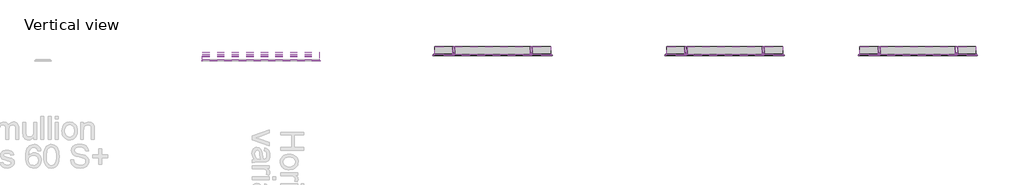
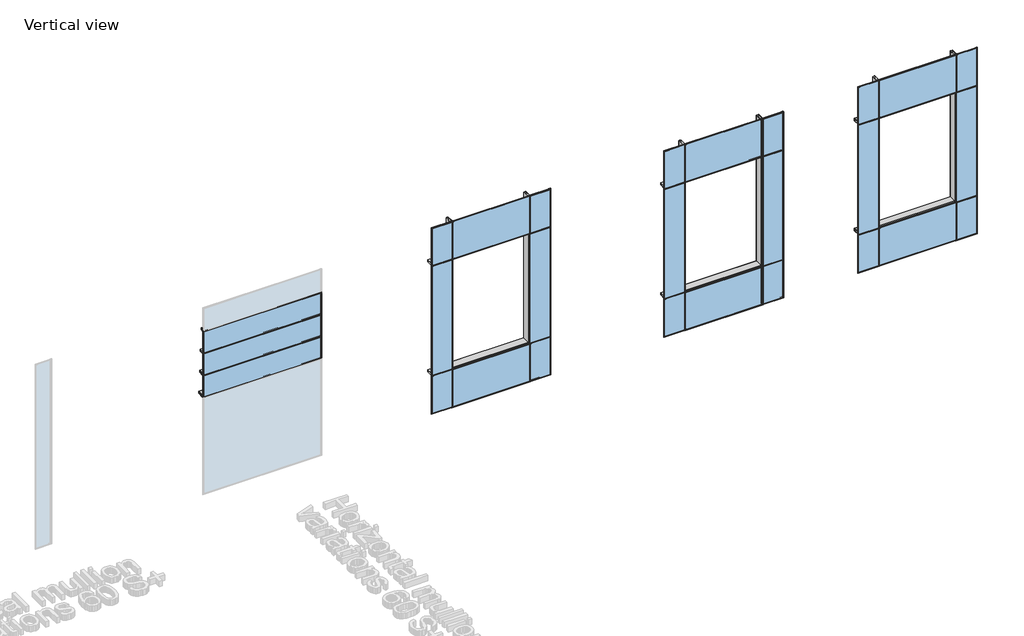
# One storey, part 3 of 8: 40 members, 27 windows.
"""IFC4 building model written with IfcOpenShell, lengths in millimetres."""

from ifc_helpers import new_model, si_unit, origin, place, context, project, spatial, transform, mapped, element, save
from components import rectangular_mullion_fmo60_202s_cc5a2b80, rectangular_mullion_fmo60_202s_3de299ea, rectangular_mullion_fmv60_114_s_1e62fae1, rectangular_mullion_fmv60_156_s_41606e2c, rectangular_mullion_fmv60_198_s_cefb9c46, rectangular_mullion_fmv60_198_s_b937cef9, rectangular_mullion_fmv60_198_s_67a3e9e7, rectangular_mullion_fmv60_198_s_6e11e081, rectangular_mullion_fmv60_88_s_6ca42b6d, fixed_panel_02_fixed_panel_rubber_02_6457a62b, fixed_panel_02_fixed_panel_rubber_02_22c873de, fixed_panel_02_fixed_panel_rubber_02_d23046c7, fixed_panel_02_fixed_panel_rubber_02_43b58ed7, fixed_panel_02_fixed_panel_rubber_02_0f69a50b, fixed_panel_02_fixed_panel_rubber_02_d76b892d, fixed_panel_02_fixed_panel_rubber_02_469b61ab, fixed_panel_02_fixed_panel_rubber_02_e0af49cf, fixed_panel_02_fixed_panel_rubber_02_09232a5a, fixed_panel_02_fixed_panel_rubber_02_66d61222

model = new_model("IFC4")

# Units and contexts
model_context = context("Model", 3, world=origin())
ifc_project = project(units=[si_unit("LENGTHUNIT", "METRE", prefix="MILLI")], contexts=[model_context])

# Site, building, storey
site = spatial("IfcSite", under=ifc_project)
building = spatial("IfcBuilding", under=site)
storey = spatial("IfcBuildingStorey", under=building, Name="Vertical view", Elevation=0.0)

# Members
placement = place(None, origin())
rectangular_mullion_fmo60_202s_shape = rectangular_mullion_fmo60_202s_cc5a2b80(model_context)
element("IfcMember", 1, ObjectType="Rectangular Mullion : FMO60-202S+", at=placement, inside=storey, context=model_context, shape_type="MappedRepresentation", body=[
    mapped(rectangular_mullion_fmo60_202s_shape, transform((40454.7967463, -3813.2711063, 4000.0), x_axis=(1.0, 0.0, 0.0), y_axis=(0.0, -1.0, 0.0), z_axis=(0.0, 0.0, -1.0))),
])
element("IfcMember", 2, ObjectType="Rectangular Mullion : FMO60-202S+", at=placement, inside=storey, context=model_context, shape_type="MappedRepresentation", body=[
    mapped(rectangular_mullion_fmo60_202s_shape, transform((42454.7967463, -3813.2711063, 4000.0), x_axis=(1.0, 0.0, 0.0), y_axis=(0.0, -1.0, 0.0), z_axis=(0.0, 0.0, -1.0))),
])
element("IfcMember", 3, ObjectType="Rectangular Mullion : FMO60-202S+", at=placement, inside=storey, context=model_context, shape_type="MappedRepresentation", body=[
    mapped(rectangular_mullion_fmo60_202s_shape, transform((46454.7967463, -3813.2711063, 4000.0), x_axis=(1.0, 0.0, 0.0), y_axis=(0.0, -1.0, 0.0), z_axis=(0.0, 0.0, -1.0))),
])
element("IfcMember", 4, ObjectType="Rectangular Mullion : FMO60-202S+", at=placement, inside=storey, context=model_context, shape_type="MappedRepresentation", body=[
    mapped(rectangular_mullion_fmo60_202s_shape, transform((48454.7967463, -3813.2711063, 4000.0), x_axis=(1.0, 0.0, 0.0), y_axis=(0.0, -1.0, 0.0), z_axis=(0.0, 0.0, -1.0))),
])
element("IfcMember", 5, ObjectType="Rectangular Mullion : FMO60-202S+", at=placement, inside=storey, context=model_context, shape_type="MappedRepresentation", body=[
    mapped(rectangular_mullion_fmo60_202s_shape, transform((51454.7967463, -3813.2711063, 4000.0), x_axis=(1.0, 0.0, 0.0), y_axis=(0.0, -1.0, 0.0), z_axis=(0.0, 0.0, -1.0))),
])
element("IfcMember", 6, ObjectType="Rectangular Mullion : FMO60-202S+", at=placement, inside=storey, context=model_context, shape_type="MappedRepresentation", body=[
    mapped(rectangular_mullion_fmo60_202s_shape, transform((53454.7967463, -3813.2711063, 4000.0), x_axis=(1.0, 0.0, 0.0), y_axis=(0.0, -1.0, 0.0), z_axis=(0.0, 0.0, -1.0))),
])
rectangular_mullion_fmo60_202s_2_shape = rectangular_mullion_fmo60_202s_3de299ea(model_context)
element("IfcMember", 7, ObjectType="Rectangular Mullion : FMO60-202S+", at=placement, inside=storey, context=model_context, shape_type="MappedRepresentation", body=[
    mapped(rectangular_mullion_fmo60_202s_2_shape, transform((40454.7967463, -3813.2711063, 1000.0), x_axis=(1.0, 0.0, 0.0), y_axis=(0.0, -1.0, 0.0), z_axis=(0.0, 0.0, -1.0))),
])
element("IfcMember", 8, ObjectType="Rectangular Mullion : FMO60-202S+", at=placement, inside=storey, context=model_context, shape_type="MappedRepresentation", body=[
    mapped(rectangular_mullion_fmo60_202s_2_shape, transform((42454.7967463, -3813.2711063, 1000.0), x_axis=(1.0, 0.0, 0.0), y_axis=(0.0, -1.0, 0.0), z_axis=(0.0, 0.0, -1.0))),
])
element("IfcMember", 9, ObjectType="Rectangular Mullion : FMO60-202S+", at=placement, inside=storey, context=model_context, shape_type="MappedRepresentation", body=[
    mapped(rectangular_mullion_fmo60_202s_2_shape, transform((46454.7967463, -3813.2711063, 1000.0), x_axis=(1.0, 0.0, 0.0), y_axis=(0.0, -1.0, 0.0), z_axis=(0.0, 0.0, -1.0))),
])
element("IfcMember", 10, ObjectType="Rectangular Mullion : FMO60-202S+", at=placement, inside=storey, context=model_context, shape_type="MappedRepresentation", body=[
    mapped(rectangular_mullion_fmo60_202s_2_shape, transform((48454.7967463, -3813.2711063, 1000.0), x_axis=(1.0, 0.0, 0.0), y_axis=(0.0, -1.0, 0.0), z_axis=(0.0, 0.0, -1.0))),
])
element("IfcMember", 11, ObjectType="Rectangular Mullion : FMO60-202S+", at=placement, inside=storey, context=model_context, shape_type="MappedRepresentation", body=[
    mapped(rectangular_mullion_fmo60_202s_2_shape, transform((51454.7967463, -3813.2711063, 1000.0), x_axis=(1.0, 0.0, 0.0), y_axis=(0.0, -1.0, 0.0), z_axis=(0.0, 0.0, -1.0))),
])
element("IfcMember", 12, ObjectType="Rectangular Mullion : FMO60-202S+", at=placement, inside=storey, context=model_context, shape_type="MappedRepresentation", body=[
    mapped(rectangular_mullion_fmo60_202s_2_shape, transform((53454.7967463, -3813.2711063, 1000.0), x_axis=(1.0, 0.0, 0.0), y_axis=(0.0, -1.0, 0.0), z_axis=(0.0, 0.0, -1.0))),
])
element("IfcMember", 13, ObjectType="Rectangular Mullion : FMO60-202S+", at=placement, inside=storey, context=model_context, shape_type="MappedRepresentation", body=[
    mapped(rectangular_mullion_fmo60_202s_shape, transform((40454.7967463, -3813.2711063, 0.0), x_axis=(1.0, 0.0, 0.0), y_axis=(0.0, -1.0, 0.0), z_axis=(0.0, 0.0, -1.0))),
])
element("IfcMember", 14, ObjectType="Rectangular Mullion : FMO60-202S+", at=placement, inside=storey, context=model_context, shape_type="MappedRepresentation", body=[
    mapped(rectangular_mullion_fmo60_202s_shape, transform((42454.7967463, -3813.2711063, 0.0), x_axis=(1.0, 0.0, 0.0), y_axis=(0.0, -1.0, 0.0), z_axis=(0.0, 0.0, -1.0))),
])
element("IfcMember", 15, ObjectType="Rectangular Mullion : FMO60-202S+", at=placement, inside=storey, context=model_context, shape_type="MappedRepresentation", body=[
    mapped(rectangular_mullion_fmo60_202s_shape, transform((46454.7967463, -3813.2711063, 0.0), x_axis=(1.0, 0.0, 0.0), y_axis=(0.0, -1.0, 0.0), z_axis=(0.0, 0.0, -1.0))),
])
element("IfcMember", 16, ObjectType="Rectangular Mullion : FMO60-202S+", at=placement, inside=storey, context=model_context, shape_type="MappedRepresentation", body=[
    mapped(rectangular_mullion_fmo60_202s_shape, transform((48454.7967463, -3813.2711063, 0.0), x_axis=(1.0, 0.0, 0.0), y_axis=(0.0, -1.0, 0.0), z_axis=(0.0, 0.0, -1.0))),
])
element("IfcMember", 17, ObjectType="Rectangular Mullion : FMO60-202S+", at=placement, inside=storey, context=model_context, shape_type="MappedRepresentation", body=[
    mapped(rectangular_mullion_fmo60_202s_shape, transform((51454.7967463, -3813.2711063, 0.0), x_axis=(1.0, 0.0, 0.0), y_axis=(0.0, -1.0, 0.0), z_axis=(0.0, 0.0, -1.0))),
])
element("IfcMember", 18, ObjectType="Rectangular Mullion : FMO60-202S+", at=placement, inside=storey, context=model_context, shape_type="MappedRepresentation", body=[
    mapped(rectangular_mullion_fmo60_202s_shape, transform((53454.7967463, -3813.2711063, 0.0), x_axis=(1.0, 0.0, 0.0), y_axis=(0.0, -1.0, 0.0), z_axis=(0.0, 0.0, -1.0))),
])
rectangular_mullion_fmv60_114_s_shape = rectangular_mullion_fmv60_114_s_1e62fae1(model_context)
element("IfcMember", 19, ObjectType="Rectangular Mullion : FMV60-114 S+", at=placement, inside=storey, context=model_context, shape_type="MappedRepresentation", body=[
    mapped(rectangular_mullion_fmv60_114_s_shape, transform((36974.7967463, -3962.2769055, 3800.0), x_axis=(0.0, 0.0, 1.0), y_axis=(0.0, -1.0, 0.0), z_axis=(1.0, 0.0, 0.0))),
])
rectangular_mullion_fmv60_156_s_shape = rectangular_mullion_fmv60_156_s_41606e2c(model_context)
element("IfcMember", 20, ObjectType="Rectangular Mullion : FMV60-156 S+", at=placement, inside=storey, context=model_context, shape_type="MappedRepresentation", body=[
    mapped(rectangular_mullion_fmv60_156_s_shape, transform((36974.7967463, -3962.2769055, 3200.0), x_axis=(0.0, 0.0, 1.0), y_axis=(0.0, -1.0, 0.0), z_axis=(1.0, 0.0, 0.0))),
])
rectangular_mullion_fmv60_198_s_shape = rectangular_mullion_fmv60_198_s_cefb9c46(model_context)
element("IfcMember", 21, ObjectType="Rectangular Mullion : FMV60-198 S+", at=placement, inside=storey, context=model_context, shape_type="MappedRepresentation", body=[
    mapped(rectangular_mullion_fmv60_198_s_shape, transform((36974.7967463, -3962.2769055, 2600.0), x_axis=(0.0, 0.0, 1.0), y_axis=(0.0, -1.0, 0.0), z_axis=(1.0, 0.0, 0.0))),
])
rectangular_mullion_fmv60_198_s_2_shape = rectangular_mullion_fmv60_198_s_b937cef9(model_context)
element("IfcMember", 22, ObjectType="Rectangular Mullion : FMV60-198 S+", at=placement, inside=storey, context=model_context, shape_type="MappedRepresentation", body=[
    mapped(rectangular_mullion_fmv60_198_s_2_shape, transform((42954.7967463, -3813.2711063, 4000.0), x_axis=(0.0, 0.0, 1.0), y_axis=(0.0, -1.0, 0.0), z_axis=(1.0, 0.0, 0.0))),
])
element("IfcMember", 23, ObjectType="Rectangular Mullion : FMV60-198 S+", at=placement, inside=storey, context=model_context, shape_type="MappedRepresentation", body=[
    mapped(rectangular_mullion_fmv60_198_s_2_shape, transform((42954.7967463, -3813.2711063, 1000.0), x_axis=(0.0, 0.0, 1.0), y_axis=(0.0, -1.0, 0.0), z_axis=(1.0, 0.0, 0.0))),
])
element("IfcMember", 24, ObjectType="Rectangular Mullion : FMV60-198 S+", at=placement, inside=storey, context=model_context, shape_type="MappedRepresentation", body=[
    mapped(rectangular_mullion_fmv60_198_s_2_shape, transform((48954.7967463, -3813.2711063, 4000.0), x_axis=(0.0, 0.0, 1.0), y_axis=(0.0, -1.0, 0.0), z_axis=(1.0, 0.0, 0.0))),
])
element("IfcMember", 25, ObjectType="Rectangular Mullion : FMV60-198 S+", at=placement, inside=storey, context=model_context, shape_type="MappedRepresentation", body=[
    mapped(rectangular_mullion_fmv60_198_s_2_shape, transform((48954.7967463, -3813.2711063, 1000.0), x_axis=(0.0, 0.0, 1.0), y_axis=(0.0, -1.0, 0.0), z_axis=(1.0, 0.0, 0.0))),
])
element("IfcMember", 26, ObjectType="Rectangular Mullion : FMV60-198 S+", at=placement, inside=storey, context=model_context, shape_type="MappedRepresentation", body=[
    mapped(rectangular_mullion_fmv60_198_s_2_shape, transform((53954.7967463, -3813.2711063, 4000.0), x_axis=(0.0, 0.0, 1.0), y_axis=(0.0, -1.0, 0.0), z_axis=(1.0, 0.0, 0.0))),
])
element("IfcMember", 27, ObjectType="Rectangular Mullion : FMV60-198 S+", at=placement, inside=storey, context=model_context, shape_type="MappedRepresentation", body=[
    mapped(rectangular_mullion_fmv60_198_s_2_shape, transform((53954.7967463, -3813.2711063, 1000.0), x_axis=(0.0, 0.0, 1.0), y_axis=(0.0, -1.0, 0.0), z_axis=(1.0, 0.0, 0.0))),
])
rectangular_mullion_fmv60_198_s_3_shape = rectangular_mullion_fmv60_198_s_67a3e9e7(model_context)
element("IfcMember", 28, ObjectType="Rectangular Mullion : FMV60-198 S+", at=placement, inside=storey, context=model_context, shape_type="MappedRepresentation", body=[
    mapped(rectangular_mullion_fmv60_198_s_3_shape, transform((42424.8006243, -3813.2711063, 4000.0), x_axis=(0.0, 0.0, 1.0), y_axis=(0.0, -1.0, 0.0), z_axis=(1.0, 0.0, 0.0))),
])
element("IfcMember", 29, ObjectType="Rectangular Mullion : FMV60-198 S+", at=placement, inside=storey, context=model_context, shape_type="MappedRepresentation", body=[
    mapped(rectangular_mullion_fmv60_198_s_3_shape, transform((42424.8006243, -3813.2711063, 1000.0), x_axis=(0.0, 0.0, 1.0), y_axis=(0.0, -1.0, 0.0), z_axis=(1.0, 0.0, 0.0))),
])
element("IfcMember", 30, ObjectType="Rectangular Mullion : FMV60-198 S+", at=placement, inside=storey, context=model_context, shape_type="MappedRepresentation", body=[
    mapped(rectangular_mullion_fmv60_198_s_3_shape, transform((48424.8006243, -3813.2711063, 4000.0), x_axis=(0.0, 0.0, 1.0), y_axis=(0.0, -1.0, 0.0), z_axis=(1.0, 0.0, 0.0))),
])
element("IfcMember", 31, ObjectType="Rectangular Mullion : FMV60-198 S+", at=placement, inside=storey, context=model_context, shape_type="MappedRepresentation", body=[
    mapped(rectangular_mullion_fmv60_198_s_3_shape, transform((48424.8006243, -3813.2711063, 1000.0), x_axis=(0.0, 0.0, 1.0), y_axis=(0.0, -1.0, 0.0), z_axis=(1.0, 0.0, 0.0))),
])
element("IfcMember", 32, ObjectType="Rectangular Mullion : FMV60-198 S+", at=placement, inside=storey, context=model_context, shape_type="MappedRepresentation", body=[
    mapped(rectangular_mullion_fmv60_198_s_3_shape, transform((53424.8006243, -3813.2711063, 4000.0), x_axis=(0.0, 0.0, 1.0), y_axis=(0.0, -1.0, 0.0), z_axis=(1.0, 0.0, 0.0))),
])
element("IfcMember", 33, ObjectType="Rectangular Mullion : FMV60-198 S+", at=placement, inside=storey, context=model_context, shape_type="MappedRepresentation", body=[
    mapped(rectangular_mullion_fmv60_198_s_3_shape, transform((53424.8006243, -3813.2711063, 1000.0), x_axis=(0.0, 0.0, 1.0), y_axis=(0.0, -1.0, 0.0), z_axis=(1.0, 0.0, 0.0))),
])
rectangular_mullion_fmv60_198_s_4_shape = rectangular_mullion_fmv60_198_s_6e11e081(model_context)
element("IfcMember", 34, ObjectType="Rectangular Mullion : FMV60-198 S+", at=placement, inside=storey, context=model_context, shape_type="MappedRepresentation", body=[
    mapped(rectangular_mullion_fmv60_198_s_4_shape, transform((40424.8006243, -3813.2711063, 4000.0), x_axis=(0.0, 0.0, 1.0), y_axis=(0.0, -1.0, 0.0), z_axis=(1.0, 0.0, 0.0))),
])
element("IfcMember", 35, ObjectType="Rectangular Mullion : FMV60-198 S+", at=placement, inside=storey, context=model_context, shape_type="MappedRepresentation", body=[
    mapped(rectangular_mullion_fmv60_198_s_4_shape, transform((40424.8006243, -3813.2711063, 1000.0), x_axis=(0.0, 0.0, 1.0), y_axis=(0.0, -1.0, 0.0), z_axis=(1.0, 0.0, 0.0))),
])
element("IfcMember", 36, ObjectType="Rectangular Mullion : FMV60-198 S+", at=placement, inside=storey, context=model_context, shape_type="MappedRepresentation", body=[
    mapped(rectangular_mullion_fmv60_198_s_4_shape, transform((46424.8006243, -3813.2711063, 4000.0), x_axis=(0.0, 0.0, 1.0), y_axis=(0.0, -1.0, 0.0), z_axis=(1.0, 0.0, 0.0))),
])
element("IfcMember", 37, ObjectType="Rectangular Mullion : FMV60-198 S+", at=placement, inside=storey, context=model_context, shape_type="MappedRepresentation", body=[
    mapped(rectangular_mullion_fmv60_198_s_4_shape, transform((46424.8006243, -3813.2711063, 1000.0), x_axis=(0.0, 0.0, 1.0), y_axis=(0.0, -1.0, 0.0), z_axis=(1.0, 0.0, 0.0))),
])
element("IfcMember", 38, ObjectType="Rectangular Mullion : FMV60-198 S+", at=placement, inside=storey, context=model_context, shape_type="MappedRepresentation", body=[
    mapped(rectangular_mullion_fmv60_198_s_4_shape, transform((51424.8006243, -3813.2711063, 4000.0), x_axis=(0.0, 0.0, 1.0), y_axis=(0.0, -1.0, 0.0), z_axis=(1.0, 0.0, 0.0))),
])
element("IfcMember", 39, ObjectType="Rectangular Mullion : FMV60-198 S+", at=placement, inside=storey, context=model_context, shape_type="MappedRepresentation", body=[
    mapped(rectangular_mullion_fmv60_198_s_4_shape, transform((51424.8006243, -3813.2711063, 1000.0), x_axis=(0.0, 0.0, 1.0), y_axis=(0.0, -1.0, 0.0), z_axis=(1.0, 0.0, 0.0))),
])
rectangular_mullion_fmv60_88_s_shape = rectangular_mullion_fmv60_88_s_6ca42b6d(model_context)
element("IfcMember", 40, ObjectType="Rectangular Mullion : FMV60-88 S+", at=placement, inside=storey, context=model_context, shape_type="MappedRepresentation", body=[
    mapped(rectangular_mullion_fmv60_88_s_shape, transform((36974.7967463, -3962.2769055, 4400.0), x_axis=(0.0, 0.0, 1.0), y_axis=(0.0, -1.0, 0.0), z_axis=(1.0, 0.0, 0.0))),
])

# Windows
fixed_panel_02_fixed_panel_rubber_02_shape = fixed_panel_02_fixed_panel_rubber_02_6457a62b(model_context)
element("IfcWindow", 41, ObjectType="fixed_panel - 02 : fixed_panel_rubber - 02", at=placement, inside=storey, context=model_context, shape_type="MappedRepresentation", body=[
    mapped(fixed_panel_02_fixed_panel_rubber_02_shape, transform((35464.7967463, -3962.2769055, 3829.9842301), x_axis=(1.0, 0.0, 0.0), y_axis=(0.0, 1.0, 0.0), z_axis=(0.0, 0.0, 1.0))),
])
element("IfcWindow", 42, ObjectType="fixed_panel - 02 : fixed_panel_rubber - 02", at=placement, inside=storey, context=model_context, shape_type="MappedRepresentation", body=[
    mapped(fixed_panel_02_fixed_panel_rubber_02_shape, transform((35464.7967463, -3962.2769055, 2629.9842035), x_axis=(1.0, 0.0, 0.0), y_axis=(0.0, 1.0, 0.0), z_axis=(0.0, 0.0, 1.0))),
])
fixed_panel_02_fixed_panel_rubber_02_2_shape = fixed_panel_02_fixed_panel_rubber_02_22c873de(model_context)
element("IfcWindow", 43, ObjectType="fixed_panel - 02 : fixed_panel_rubber - 02", at=placement, inside=storey, context=model_context, shape_type="MappedRepresentation", body=[
    mapped(fixed_panel_02_fixed_panel_rubber_02_2_shape, transform((35464.7967463, -3962.2769055, 3229.9842035), x_axis=(1.0, 0.0, 0.0), y_axis=(0.0, 1.0, 0.0), z_axis=(0.0, 0.0, 1.0))),
])
fixed_panel_02_fixed_panel_rubber_02_3_shape = fixed_panel_02_fixed_panel_rubber_02_d23046c7(model_context)
element("IfcWindow", 44, ObjectType="fixed_panel - 02 : fixed_panel_rubber - 02", at=placement, inside=storey, context=model_context, shape_type="MappedRepresentation", body=[
    mapped(fixed_panel_02_fixed_panel_rubber_02_3_shape, transform((42719.7968157, -3813.2711063, 0.0), x_axis=(1.0, 0.0, 0.0), y_axis=(0.0, 1.0, 0.0), z_axis=(0.0, 0.0, 1.0))),
])
element("IfcWindow", 45, ObjectType="fixed_panel - 02 : fixed_panel_rubber - 02", at=placement, inside=storey, context=model_context, shape_type="MappedRepresentation", body=[
    mapped(fixed_panel_02_fixed_panel_rubber_02_3_shape, transform((48719.7968157, -3813.2711063, 0.0), x_axis=(1.0, 0.0, 0.0), y_axis=(0.0, 1.0, 0.0), z_axis=(0.0, 0.0, 1.0))),
])
element("IfcWindow", 46, ObjectType="fixed_panel - 02 : fixed_panel_rubber - 02", at=placement, inside=storey, context=model_context, shape_type="MappedRepresentation", body=[
    mapped(fixed_panel_02_fixed_panel_rubber_02_3_shape, transform((53719.7968157, -3813.2711063, 0.0), x_axis=(1.0, 0.0, 0.0), y_axis=(0.0, 1.0, 0.0), z_axis=(0.0, 0.0, 1.0))),
])
fixed_panel_02_fixed_panel_rubber_02_4_shape = fixed_panel_02_fixed_panel_rubber_02_43b58ed7(model_context)
element("IfcWindow", 47, ObjectType="fixed_panel - 02 : fixed_panel_rubber - 02", at=placement, inside=storey, context=model_context, shape_type="MappedRepresentation", body=[
    mapped(fixed_panel_02_fixed_panel_rubber_02_4_shape, transform((42719.7968157, -3813.2711063, 1029.9842035), x_axis=(1.0, 0.0, 0.0), y_axis=(0.0, 1.0, 0.0), z_axis=(0.0, 0.0, 1.0))),
])
element("IfcWindow", 48, ObjectType="fixed_panel - 02 : fixed_panel_rubber - 02", at=placement, inside=storey, context=model_context, shape_type="MappedRepresentation", body=[
    mapped(fixed_panel_02_fixed_panel_rubber_02_4_shape, transform((48719.7968157, -3813.2711063, 1029.9842035), x_axis=(1.0, 0.0, 0.0), y_axis=(0.0, 1.0, 0.0), z_axis=(0.0, 0.0, 1.0))),
])
element("IfcWindow", 49, ObjectType="fixed_panel - 02 : fixed_panel_rubber - 02", at=placement, inside=storey, context=model_context, shape_type="MappedRepresentation", body=[
    mapped(fixed_panel_02_fixed_panel_rubber_02_4_shape, transform((53719.7968157, -3813.2711063, 1029.9842035), x_axis=(1.0, 0.0, 0.0), y_axis=(0.0, 1.0, 0.0), z_axis=(0.0, 0.0, 1.0))),
])
fixed_panel_02_fixed_panel_rubber_02_5_shape = fixed_panel_02_fixed_panel_rubber_02_0f69a50b(model_context)
element("IfcWindow", 50, ObjectType="fixed_panel - 02 : fixed_panel_rubber - 02", at=placement, inside=storey, context=model_context, shape_type="MappedRepresentation", body=[
    mapped(fixed_panel_02_fixed_panel_rubber_02_5_shape, transform((42719.7968157, -3813.2711063, 4029.9842035), x_axis=(1.0, 0.0, 0.0), y_axis=(0.0, 1.0, 0.0), z_axis=(0.0, 0.0, 1.0))),
])
element("IfcWindow", 51, ObjectType="fixed_panel - 02 : fixed_panel_rubber - 02", at=placement, inside=storey, context=model_context, shape_type="MappedRepresentation", body=[
    mapped(fixed_panel_02_fixed_panel_rubber_02_5_shape, transform((48719.7968157, -3813.2711063, 4029.9842035), x_axis=(1.0, 0.0, 0.0), y_axis=(0.0, 1.0, 0.0), z_axis=(0.0, 0.0, 1.0))),
])
element("IfcWindow", 52, ObjectType="fixed_panel - 02 : fixed_panel_rubber - 02", at=placement, inside=storey, context=model_context, shape_type="MappedRepresentation", body=[
    mapped(fixed_panel_02_fixed_panel_rubber_02_5_shape, transform((53719.7968157, -3813.2711063, 4029.9842035), x_axis=(1.0, 0.0, 0.0), y_axis=(0.0, 1.0, 0.0), z_axis=(0.0, 0.0, 1.0))),
])
fixed_panel_02_fixed_panel_rubber_02_6_shape = fixed_panel_02_fixed_panel_rubber_02_d76b892d(model_context)
element("IfcWindow", 53, ObjectType="fixed_panel - 02 : fixed_panel_rubber - 02", at=placement, inside=storey, context=model_context, shape_type="MappedRepresentation", body=[
    mapped(fixed_panel_02_fixed_panel_rubber_02_6_shape, transform((40189.7986853, -3813.2711063, 4029.9842035), x_axis=(1.0, 0.0, 0.0), y_axis=(0.0, 1.0, 0.0), z_axis=(0.0, 0.0, 1.0))),
])
element("IfcWindow", 54, ObjectType="fixed_panel - 02 : fixed_panel_rubber - 02", at=placement, inside=storey, context=model_context, shape_type="MappedRepresentation", body=[
    mapped(fixed_panel_02_fixed_panel_rubber_02_6_shape, transform((46189.7986853, -3813.2711063, 4029.9842035), x_axis=(1.0, 0.0, 0.0), y_axis=(0.0, 1.0, 0.0), z_axis=(0.0, 0.0, 1.0))),
])
element("IfcWindow", 55, ObjectType="fixed_panel - 02 : fixed_panel_rubber - 02", at=placement, inside=storey, context=model_context, shape_type="MappedRepresentation", body=[
    mapped(fixed_panel_02_fixed_panel_rubber_02_6_shape, transform((51189.7986853, -3813.2711063, 4029.9842035), x_axis=(1.0, 0.0, 0.0), y_axis=(0.0, 1.0, 0.0), z_axis=(0.0, 0.0, 1.0))),
])
fixed_panel_02_fixed_panel_rubber_02_7_shape = fixed_panel_02_fixed_panel_rubber_02_469b61ab(model_context)
element("IfcWindow", 56, ObjectType="fixed_panel - 02 : fixed_panel_rubber - 02", at=placement, inside=storey, context=model_context, shape_type="MappedRepresentation", body=[
    mapped(fixed_panel_02_fixed_panel_rubber_02_7_shape, transform((41454.7987547, -3813.2711063, 4029.9842035), x_axis=(1.0, 0.0, 0.0), y_axis=(0.0, 1.0, 0.0), z_axis=(0.0, 0.0, 1.0))),
])
element("IfcWindow", 57, ObjectType="fixed_panel - 02 : fixed_panel_rubber - 02", at=placement, inside=storey, context=model_context, shape_type="MappedRepresentation", body=[
    mapped(fixed_panel_02_fixed_panel_rubber_02_7_shape, transform((47454.7987547, -3813.2711063, 4029.9842035), x_axis=(1.0, 0.0, 0.0), y_axis=(0.0, 1.0, 0.0), z_axis=(0.0, 0.0, 1.0))),
])
element("IfcWindow", 58, ObjectType="fixed_panel - 02 : fixed_panel_rubber - 02", at=placement, inside=storey, context=model_context, shape_type="MappedRepresentation", body=[
    mapped(fixed_panel_02_fixed_panel_rubber_02_7_shape, transform((52454.7987547, -3813.2711063, 4029.9842035), x_axis=(1.0, 0.0, 0.0), y_axis=(0.0, 1.0, 0.0), z_axis=(0.0, 0.0, 1.0))),
])
fixed_panel_02_fixed_panel_rubber_02_8_shape = fixed_panel_02_fixed_panel_rubber_02_e0af49cf(model_context)
element("IfcWindow", 59, ObjectType="fixed_panel - 02 : fixed_panel_rubber - 02", at=placement, inside=storey, context=model_context, shape_type="MappedRepresentation", body=[
    mapped(fixed_panel_02_fixed_panel_rubber_02_8_shape, transform((40189.7986853, -3813.2711063, 0.0), x_axis=(1.0, 0.0, 0.0), y_axis=(0.0, 1.0, 0.0), z_axis=(0.0, 0.0, 1.0))),
])
element("IfcWindow", 60, ObjectType="fixed_panel - 02 : fixed_panel_rubber - 02", at=placement, inside=storey, context=model_context, shape_type="MappedRepresentation", body=[
    mapped(fixed_panel_02_fixed_panel_rubber_02_8_shape, transform((46189.7986853, -3813.2711063, 0.0), x_axis=(1.0, 0.0, 0.0), y_axis=(0.0, 1.0, 0.0), z_axis=(0.0, 0.0, 1.0))),
])
element("IfcWindow", 61, ObjectType="fixed_panel - 02 : fixed_panel_rubber - 02", at=placement, inside=storey, context=model_context, shape_type="MappedRepresentation", body=[
    mapped(fixed_panel_02_fixed_panel_rubber_02_8_shape, transform((51189.7986853, -3813.2711063, 0.0), x_axis=(1.0, 0.0, 0.0), y_axis=(0.0, 1.0, 0.0), z_axis=(0.0, 0.0, 1.0))),
])
fixed_panel_02_fixed_panel_rubber_02_9_shape = fixed_panel_02_fixed_panel_rubber_02_09232a5a(model_context)
element("IfcWindow", 62, ObjectType="fixed_panel - 02 : fixed_panel_rubber - 02", at=placement, inside=storey, context=model_context, shape_type="MappedRepresentation", body=[
    mapped(fixed_panel_02_fixed_panel_rubber_02_9_shape, transform((41454.7987547, -3813.2711063, 0.0), x_axis=(1.0, 0.0, 0.0), y_axis=(0.0, 1.0, 0.0), z_axis=(0.0, 0.0, 1.0))),
])
element("IfcWindow", 63, ObjectType="fixed_panel - 02 : fixed_panel_rubber - 02", at=placement, inside=storey, context=model_context, shape_type="MappedRepresentation", body=[
    mapped(fixed_panel_02_fixed_panel_rubber_02_9_shape, transform((47454.7987547, -3813.2711063, 0.0), x_axis=(1.0, 0.0, 0.0), y_axis=(0.0, 1.0, 0.0), z_axis=(0.0, 0.0, 1.0))),
])
element("IfcWindow", 64, ObjectType="fixed_panel - 02 : fixed_panel_rubber - 02", at=placement, inside=storey, context=model_context, shape_type="MappedRepresentation", body=[
    mapped(fixed_panel_02_fixed_panel_rubber_02_9_shape, transform((52454.7987547, -3813.2711063, 0.0), x_axis=(1.0, 0.0, 0.0), y_axis=(0.0, 1.0, 0.0), z_axis=(0.0, 0.0, 1.0))),
])
fixed_panel_02_fixed_panel_rubber_02_10_shape = fixed_panel_02_fixed_panel_rubber_02_66d61222(model_context)
element("IfcWindow", 65, ObjectType="fixed_panel - 02 : fixed_panel_rubber - 02", at=placement, inside=storey, context=model_context, shape_type="MappedRepresentation", body=[
    mapped(fixed_panel_02_fixed_panel_rubber_02_10_shape, transform((40189.7986853, -3813.2711063, 1029.9842035), x_axis=(1.0, 0.0, 0.0), y_axis=(0.0, 1.0, 0.0), z_axis=(0.0, 0.0, 1.0))),
])
element("IfcWindow", 66, ObjectType="fixed_panel - 02 : fixed_panel_rubber - 02", at=placement, inside=storey, context=model_context, shape_type="MappedRepresentation", body=[
    mapped(fixed_panel_02_fixed_panel_rubber_02_10_shape, transform((46189.7986853, -3813.2711063, 1029.9842035), x_axis=(1.0, 0.0, 0.0), y_axis=(0.0, 1.0, 0.0), z_axis=(0.0, 0.0, 1.0))),
])
element("IfcWindow", 67, ObjectType="fixed_panel - 02 : fixed_panel_rubber - 02", at=placement, inside=storey, context=model_context, shape_type="MappedRepresentation", body=[
    mapped(fixed_panel_02_fixed_panel_rubber_02_10_shape, transform((51189.7986853, -3813.2711063, 1029.9842035), x_axis=(1.0, 0.0, 0.0), y_axis=(0.0, 1.0, 0.0), z_axis=(0.0, 0.0, 1.0))),
])

save(model, "model.ifc")
